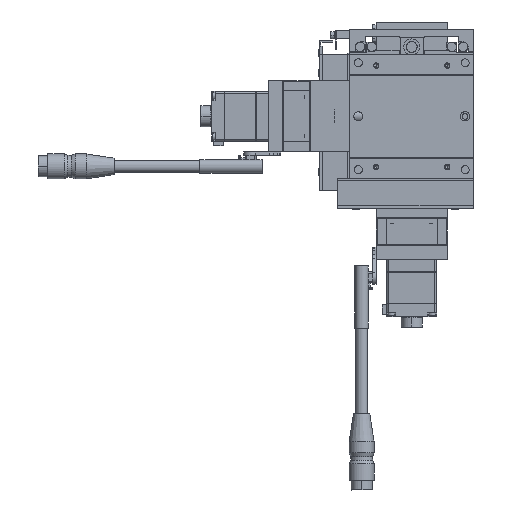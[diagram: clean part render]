
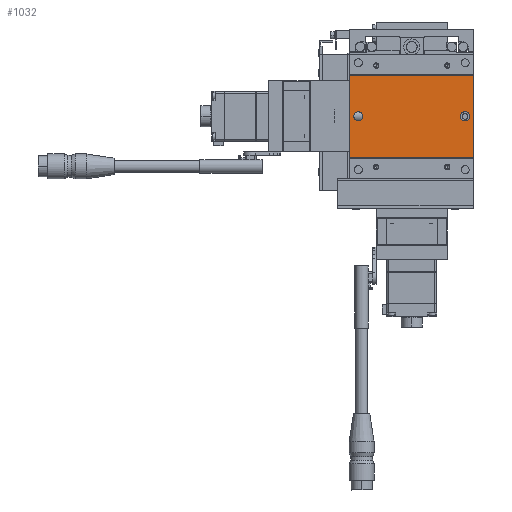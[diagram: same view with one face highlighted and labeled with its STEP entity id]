
A CAD part, front view. The second image highlights one B-rep face of the part: STEP entity #1032.
In plain terms, the highlighted planar face has unit normal (0, -1, 0).
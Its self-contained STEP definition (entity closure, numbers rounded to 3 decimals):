
#1032=ADVANCED_FACE('',(#2963,#2964,#2965),#2966,.F.);
#2963=FACE_BOUND('',#6903,.T.);
#2964=FACE_OUTER_BOUND('',#6904,.T.);
#2965=FACE_BOUND('',#6905,.T.);
#2966=PLANE('',#6906);
#6903=EDGE_LOOP('',(#11388,#11389,#11390,#11391));
#6904=EDGE_LOOP('',(#11392,#11393,#11394,#11395));
#6905=EDGE_LOOP('',(#11396,#11397,#11398));
#6906=AXIS2_PLACEMENT_3D('',#11399,#11400,#11401);
#11388=ORIENTED_EDGE('',*,*,#25522,.F.);
#11389=ORIENTED_EDGE('',*,*,#25523,.F.);
#11390=ORIENTED_EDGE('',*,*,#25524,.F.);
#11391=ORIENTED_EDGE('',*,*,#25525,.F.);
#11392=ORIENTED_EDGE('',*,*,#25511,.T.);
#11393=ORIENTED_EDGE('',*,*,#25526,.F.);
#11394=ORIENTED_EDGE('',*,*,#25527,.F.);
#11395=ORIENTED_EDGE('',*,*,#25528,.T.);
#11396=ORIENTED_EDGE('',*,*,#25408,.F.);
#11397=ORIENTED_EDGE('',*,*,#25407,.F.);
#11398=ORIENTED_EDGE('',*,*,#25529,.F.);
#11399=CARTESIAN_POINT('',(-35.,0.35,-23.15));
#11400=DIRECTION('',(0.,1.0,0.));
#11401=DIRECTION('',(-1.0,0.,0.));
#25407=EDGE_CURVE('',#30070,#30072,#30073,.F.);
#25408=EDGE_CURVE('',#30072,#30066,#30074,.F.);
#25511=EDGE_CURVE('',#30267,#30265,#30268,.T.);
#25522=EDGE_CURVE('',#30287,#30288,#30289,.F.);
#25523=EDGE_CURVE('',#30290,#30287,#30291,.T.);
#25524=EDGE_CURVE('',#30292,#30290,#30293,.F.);
#25525=EDGE_CURVE('',#30288,#30292,#30294,.T.);
#25526=EDGE_CURVE('',#30295,#30265,#30296,.T.);
#25527=EDGE_CURVE('',#30297,#30295,#30298,.T.);
#25528=EDGE_CURVE('',#30297,#30267,#30299,.T.);
#25529=EDGE_CURVE('',#30066,#30070,#30300,.F.);
#30066=VERTEX_POINT('',#37627);
#30070=VERTEX_POINT('',#37632);
#30072=VERTEX_POINT('',#37635);
#30073=CIRCLE('',#37636,2.5);
#30074=CIRCLE('',#37637,2.5);
#30265=VERTEX_POINT('',#37886);
#30267=VERTEX_POINT('',#37889);
#30268=LINE('',#37890,#37891);
#30287=VERTEX_POINT('',#37919);
#30288=VERTEX_POINT('',#37920);
#30289=CIRCLE('',#37921,2.5);
#30290=VERTEX_POINT('',#37922);
#30291=LINE('',#37923,#37924);
#30292=VERTEX_POINT('',#37925);
#30293=CIRCLE('',#37926,2.5);
#30294=LINE('',#37927,#37928);
#30295=VERTEX_POINT('',#37929);
#30296=LINE('',#37930,#37931);
#30297=VERTEX_POINT('',#37932);
#30298=LINE('',#37933,#37934);
#30299=LINE('',#37935,#37936);
#30300=CIRCLE('',#37937,2.5);
#37627=CARTESIAN_POINT('',(-27.5,0.35,0.));
#37632=CARTESIAN_POINT('',(-32.5,0.35,0.));
#37635=CARTESIAN_POINT('',(-30.,0.35,-2.5));
#37636=AXIS2_PLACEMENT_3D('',#48033,#48034,#48035);
#37637=AXIS2_PLACEMENT_3D('',#48036,#48037,#48038);
#37886=CARTESIAN_POINT('',(35.,0.35,23.15));
#37889=CARTESIAN_POINT('',(35.,0.35,-23.15));
#37890=CARTESIAN_POINT('',(35.,0.35,-23.15));
#37891=VECTOR('',#48227,1000.0);
#37919=CARTESIAN_POINT('',(30.25,0.35,-2.5));
#37920=CARTESIAN_POINT('',(30.25,0.35,2.5));
#37921=AXIS2_PLACEMENT_3D('',#48240,#48241,#48242);
#37922=CARTESIAN_POINT('',(29.75,0.35,-2.5));
#37923=CARTESIAN_POINT('',(-35.,0.35,-2.5));
#37924=VECTOR('',#48243,1000.0);
#37925=CARTESIAN_POINT('',(29.75,0.35,2.5));
#37926=AXIS2_PLACEMENT_3D('',#48244,#48245,#48246);
#37927=CARTESIAN_POINT('',(-35.,0.35,2.5));
#37928=VECTOR('',#48247,1000.0);
#37929=CARTESIAN_POINT('',(-35.,0.35,23.15));
#37930=CARTESIAN_POINT('',(-35.,0.35,23.15));
#37931=VECTOR('',#48248,1000.0);
#37932=CARTESIAN_POINT('',(-35.,0.35,-23.15));
#37933=CARTESIAN_POINT('',(-35.,0.35,-23.15));
#37934=VECTOR('',#48249,1000.0);
#37935=CARTESIAN_POINT('',(-35.,0.35,-23.15));
#37936=VECTOR('',#48250,1000.0);
#37937=AXIS2_PLACEMENT_3D('',#48251,#48252,#48253);
#48033=CARTESIAN_POINT('',(-30.0,0.35,0.));
#48034=DIRECTION('',(0.,1.0,0.));
#48035=DIRECTION('',(0.,0.,-1.0));
#48036=CARTESIAN_POINT('',(-30.0,0.35,0.));
#48037=DIRECTION('',(0.,1.0,0.));
#48038=DIRECTION('',(0.,0.,-1.0));
#48227=DIRECTION('',(0.,0.,1.0));
#48240=CARTESIAN_POINT('',(30.25,0.35,0.));
#48241=DIRECTION('',(0.,1.0,0.));
#48242=DIRECTION('',(0.,0.,-1.0));
#48243=DIRECTION('',(1.0,0.,0.));
#48244=CARTESIAN_POINT('',(29.75,0.35,0.));
#48245=DIRECTION('',(0.,1.0,0.));
#48246=DIRECTION('',(0.,0.,-1.0));
#48247=DIRECTION('',(-1.0,0.,0.));
#48248=DIRECTION('',(1.0,0.,0.));
#48249=DIRECTION('',(0.,0.,1.0));
#48250=DIRECTION('',(1.0,0.,0.));
#48251=CARTESIAN_POINT('',(-30.0,0.35,0.));
#48252=DIRECTION('',(0.,1.0,0.));
#48253=DIRECTION('',(0.,0.,-1.0));
